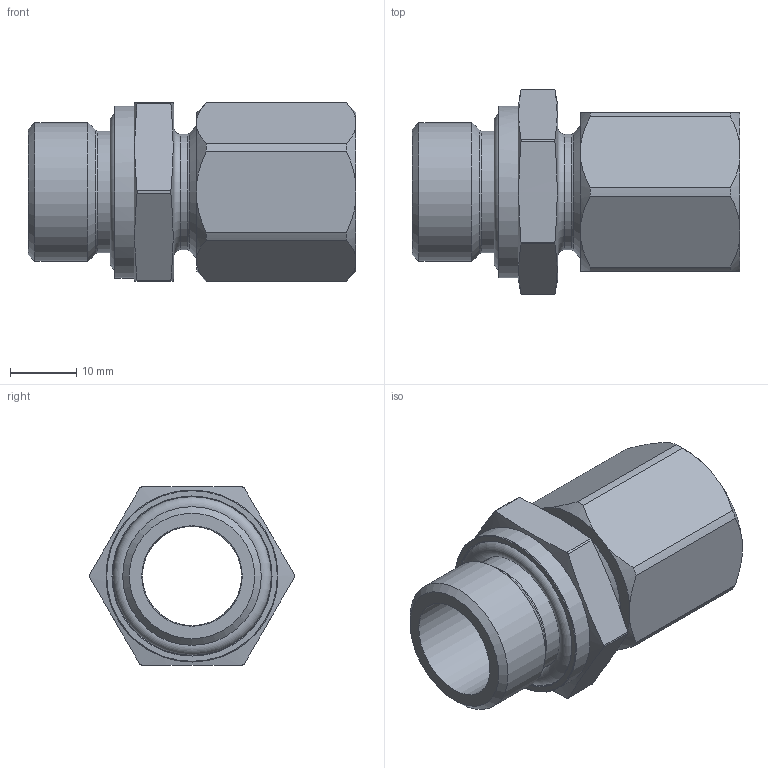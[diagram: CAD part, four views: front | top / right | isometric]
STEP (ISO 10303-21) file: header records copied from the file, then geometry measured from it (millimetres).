
FILE_DESCRIPTION(/* description */ (''),/* implementation_level */ '2;1');
FILE_NAME(/* name */ '535092_01_1-Verschraubung_kpl_G1_2-15.stp',/* time_stamp */ '2023-11-27T11:27:04+01:00',/* author */ (''),/* organization */ (''),/* preprocessor_version */ 'ST-DEVELOPER v16',/* originating_system */ 'SIEMENS PLM Software NX 11.0',/* authorisation */ '');
FILE_SCHEMA (('AP203_CONFIGURATION_CONTROLLED_3D_DESIGN_OF_MECHANICAL_PARTS_AND_ASSEMBLIES_MIM_LF { 1 0 10303 403 2 1 2}'));
Length unit declared in the file: millimetre
Products named in the file (1): kien77586321rq21
Bounding box: 49.5 x 31 x 27 mm (x, y, z)
Volume: 13251.9 mm3; surface area: 9165.6 mm2
Topology: 2 solids, 2 shells, 83 faces, 222 edges, 143 vertices
Faces by surface type: cylinder 25, cone 25, plane 24, torus 9
Full cylindrical faces by diameter (mm): 15 x1, 15.2 x2, 17.5 x1, 18.1 x2, 18.4 x1, 18.5 x1, 20.96 x1, 24 x1, 26 x1
Entity records: 2437 total; most frequent: CARTESIAN_POINT 513, DIRECTION 376, ORIENTED_EDGE 342, EDGE_CURVE 171, AXIS2_PLACEMENT_3D 165, VERTEX_POINT 126, EDGE_LOOP 122, ADVANCED_FACE 83
